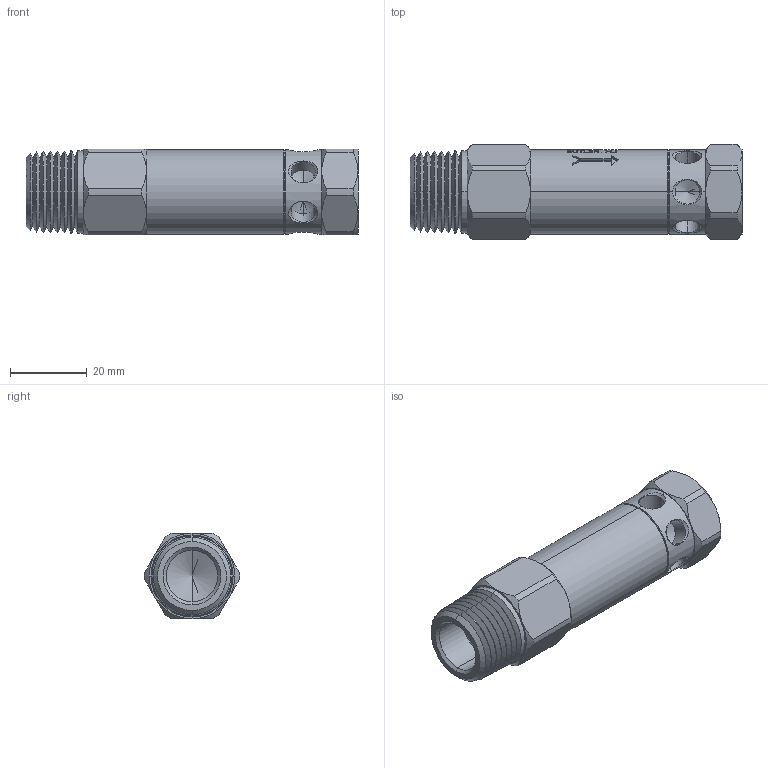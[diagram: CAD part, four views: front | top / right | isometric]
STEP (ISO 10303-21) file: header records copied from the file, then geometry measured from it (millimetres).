
FILE_DESCRIPTION (( 'STEP AP203' ), '1' );
FILE_NAME ('IRVD-8.STEP', '2020-08-13T12:55:34', ( '' ), ( '' ), 'SwSTEP 2.0', 'SolidWorks 2020', '' );
FILE_SCHEMA (( 'CONFIG_CONTROL_DESIGN' ));
Length unit declared in the file: inch
Products named in the file (2): Part16^IRVD-8; IRVD-8
Assembly tree (1 placements, depth 2):
  IRVD-8
    Part16^IRVD-8
Bounding box: 86.28 x 24.76 x 22.23 mm (x, y, z)
Volume: 30026 mm3; surface area: 8562.9 mm2
Topology: 1 solids, 1 shells, 385 faces, 958 edges, 593 vertices
Faces by surface type: plane 148, cone 110, bspline 70, cylinder 57
Entity records: 16555 total; most frequent: CARTESIAN_POINT 7869, ORIENTED_EDGE 1888, DIRECTION 1556, EDGE_CURVE 944, VERTEX_POINT 593, AXIS2_PLACEMENT_3D 591, EDGE_LOOP 417, ADVANCED_FACE 385
